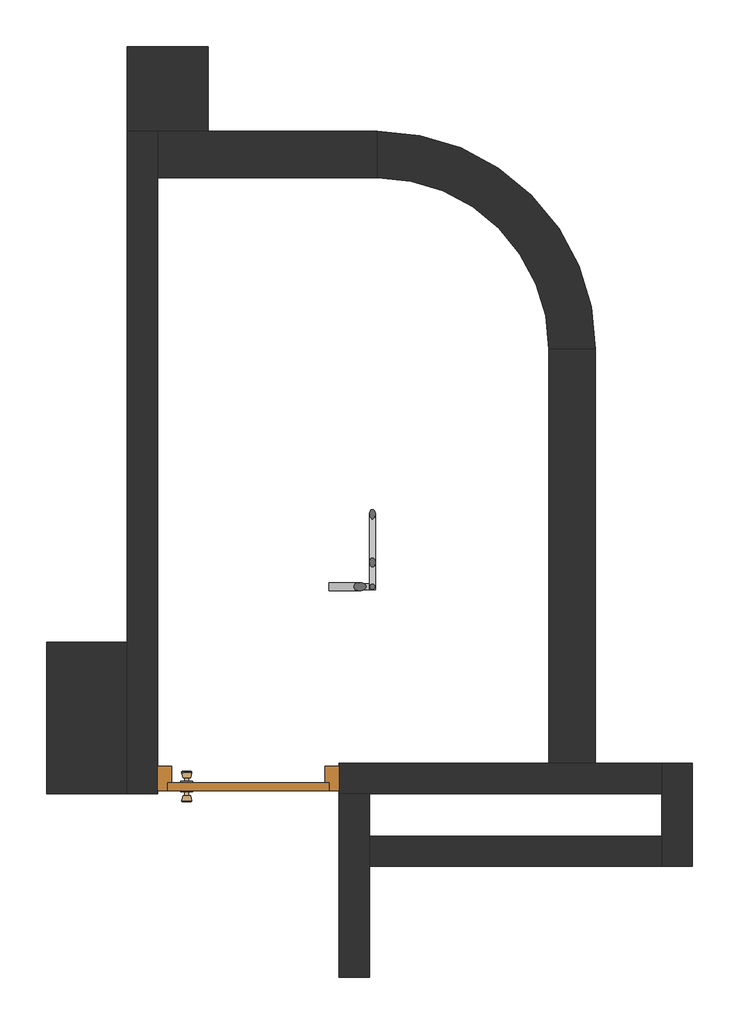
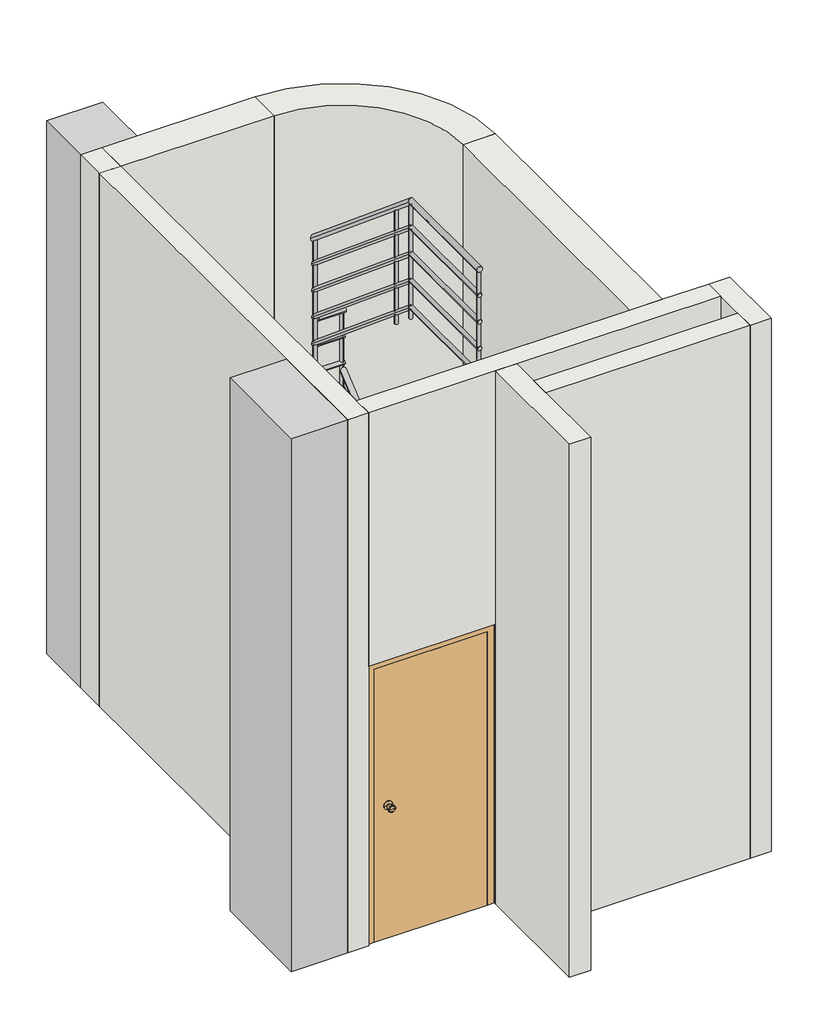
# One storey: 8 walls, 2 columns, 1 door, 1 railing.
"""IFC4 building model written with IfcOpenShell, lengths in millimetres."""

from ifc_helpers import new_model, si_unit, point, frame, frame_2d, origin, place, context, project, spatial, polyline, circle_curve, trimmed, segment, composite_curve, outline, extrude, faceted_brep, transform, mapped, element, save
from components import column_40x65_6e326135, column_55x75_de16586b, door_90x210_62a0c4fc, railing_c0a6fd58

model = new_model("IFC4")

# Units and contexts
model_context = context("Model", 3, world=origin())
ifc_project = project(units=[si_unit("LENGTHUNIT", "METRE", prefix="MILLI")], contexts=[model_context])

# Site, building, storey
site = spatial("IfcSite", under=ifc_project)
building = spatial("IfcBuilding", under=site)
storey = spatial("IfcBuildingStorey", under=building, Name="標高 1", Elevation=200.0)

# Columns
placement = place(None, origin())
column_40x65_shape = column_40x65_6e326135(model_context)
element("IfcColumn", 1, ObjectType="混凝土柱-矩形 : 40x65", at=placement, inside=storey, context=model_context, shape_type="MappedRepresentation", body=[
    mapped(column_40x65_shape, transform((-43.3424132, 2243.6901696, 0.0), x_axis=(1.0, 0.0, 0.0), y_axis=(0.0, 1.0, 0.0), z_axis=(0.0, 0.0, 1.0))),
])
column_55x75_shape = column_55x75_de16586b(model_context)
element("IfcColumn", 2, ObjectType="混凝土柱-矩形 : 55x75", at=placement, inside=storey, context=model_context, shape_type="MappedRepresentation", body=[
    mapped(column_55x75_shape, transform((-368.3424132, -756.3098304, 0.0), x_axis=(1.0, 0.0, 0.0), y_axis=(0.0, 1.0, 0.0), z_axis=(0.0, 0.0, 1.0))),
])

# Door
door_90x210_shape = door_90x210_62a0c4fc(model_context)
element("IfcDoor", 3, ObjectType="門-單開門-矩形 (1) : 90x210", at=placement, inside=storey, context=model_context, shape_type="MappedRepresentation", body=[
    mapped(door_90x210_shape, transform((356.3494337, -1056.3098304, 200.0), x_axis=(-1.0, 0.0, 0.0), y_axis=(0.0, -1.0, 0.0), z_axis=(0.0, 0.0, 1.0))),
])

# Railing
railing_shape = railing_c0a6fd58(model_context)
element("IfcRailing", 4, ObjectType="900mm 圓管", at=placement, inside=storey, context=model_context, shape_type="MappedRepresentation", body=[
    mapped(railing_shape, transform((0.0, 0.0, 0.0), x_axis=(1.0, 0.0, 0.0), y_axis=(0.0, 1.0, 0.0), z_axis=(0.0, 0.0, 1.0))),
])

# Walls
element("IfcWall", 5, ObjectType="RC牆 15cm", at=placement, inside=storey, context=model_context, shape_type="Brep", body=[
    faceted_brep([(-243.3424132, 2148.6901696, 200.0), (-243.3424132, -1131.3098304, 200.0), (-243.3424132, -1131.3098304, 4200.0), (-243.3424132, 2148.6901696, 4200.0), (-93.3424132, 2148.6901696, 4200.0), (-93.3424132, 1918.6901696, 4200.0), (-93.3424132, -981.3098304, 4200.0), (-93.3424132, -1131.3098304, 4200.0), (-93.3424132, -1131.3098304, 2300.0), (-93.3424132, -981.3098304, 2300.0), (-93.3424132, -981.3098304, 200.0), (-93.3424132, 1918.6901696, 200.0), (-93.3424132, 2148.6901696, 200.0), (-93.6505663, -981.3098304, 200.0), (-93.6505663, -1131.3098304, 200.0), (-93.6505663, -1131.3098304, 2300.0), (-93.6505663, -981.3098304, 2300.0)], [[[0, 1, 2, 3]], [[4, 5, 6, 7, 8, 9, 10, 11, 12]], [[1, 0, 12, 11, 10, 13, 14]], [[3, 2, 7, 6, 5, 4]], [[2, 1, 14, 15, 8, 7]], [[0, 3, 4, 12]], [[16, 13, 10, 9]], [[13, 16, 15, 14]], [[15, 16, 9, 8]]]),
])
element("IfcWall", 6, ObjectType="RC牆 15cm", at=placement, inside=storey, context=model_context, shape_type="SweptSolid", body=[
    extrude(outline(polyline([(2406.3494337, -1491.3098304), (956.3494337, -1491.3098304), (956.3494337, -1341.3098304), (2406.3494337, -1341.3098304), (2406.3494337, -1491.3098304)])), frame((0.0, 0.0, 200.0), z_axis=(0.0, 0.0, 1.0), x_axis=(1.0, 0.0, 0.0)), (0.0, 0.0, 1.0), 4000.0),
])
element("IfcWall", 7, ObjectType="RC牆 15cm", at=placement, inside=storey, context=model_context, shape_type="Brep", body=[
    faceted_brep([(806.3494337, -1131.3098304, 200.0), (806.3494337, -2041.3098304, 200.0), (806.3494337, -2041.3098304, 4200.0), (806.3494337, -1131.3098304, 4200.0), (956.3494337, -1131.3098304, 200.0), (956.3494337, -1131.3098304, 4200.0), (956.3494337, -1341.3098304, 4200.0), (956.3494337, -1491.3098304, 4200.0), (956.3494337, -2041.3098304, 4200.0), (956.3494337, -2041.3098304, 200.0), (956.3494337, -1491.3098304, 200.0), (956.3494337, -1341.3098304, 200.0)], [[[0, 1, 2, 3]], [[4, 5, 6, 7, 8, 9, 10, 11]], [[1, 0, 4, 11, 10, 9]], [[2, 1, 9, 8]], [[3, 2, 8, 7, 6, 5]], [[0, 3, 5, 4]]]),
])
element("IfcWall", 8, ObjectType="RC牆 15cm", at=placement, inside=storey, context=model_context, shape_type="Brep", body=[
    faceted_brep([(2406.3494337, -1131.3098304, 4200.0), (956.3494337, -1131.3098304, 4200.0), (806.3494337, -1131.3098304, 4200.0), (-93.3424132, -1131.3098304, 4200.0), (-93.3424132, -1131.3098304, 2300.0), (806.3494337, -1131.3098304, 2300.0), (806.3494337, -1131.3098304, 200.0), (956.3494337, -1131.3098304, 200.0), (2406.3494337, -1131.3098304, 200.0), (-93.3424132, -981.3098304, 4200.0), (1846.6575868, -981.3098304, 4200.0), (2076.6575868, -981.3098304, 4200.0), (2406.3494337, -981.3098304, 4200.0), (2406.3494337, -981.3098304, 200.0), (2076.6575868, -981.3098304, 200.0), (1846.6575868, -981.3098304, 200.0), (806.3494337, -981.3098304, 200.0), (806.3494337, -981.3098304, 2300.0), (-93.3424132, -981.3098304, 2300.0)], [[[0, 1, 2, 3, 4, 5, 6, 7, 8]], [[9, 10, 11, 12, 13, 14, 15, 16, 17, 18]], [[13, 8, 7, 6, 16, 15, 14]], [[3, 2, 1, 0, 12, 11, 10, 9]], [[3, 9, 18, 4]], [[0, 8, 13, 12]], [[17, 5, 4, 18]], [[5, 17, 16, 6]]]),
])
element("IfcWall", 9, ObjectType="RC牆 15cm", at=placement, inside=storey, context=model_context, shape_type="Brep", body=[
    faceted_brep([(2556.3494337, -1491.3098304, 200.0), (2556.3494337, -981.3098304, 200.0), (2556.3494337, -981.3098304, 4200.0), (2556.3494337, -1491.3098304, 4200.0), (2406.3494337, -1491.3098304, 200.0), (2406.3494337, -1491.3098304, 4200.0), (2406.3494337, -1341.3098304, 4200.0), (2406.3494337, -1131.3098304, 4200.0), (2406.3494337, -981.3098304, 4200.0), (2406.3494337, -981.3098304, 200.0), (2406.3494337, -1131.3098304, 200.0), (2406.3494337, -1341.3098304, 200.0)], [[[0, 1, 2, 3]], [[4, 5, 6, 7, 8, 9, 10, 11]], [[1, 0, 4, 11, 10, 9]], [[3, 2, 8, 7, 6, 5]], [[0, 3, 5, 4]], [[2, 1, 9, 8]]]),
])
element("IfcWall", 10, ObjectType="RC牆 23cm", at=placement, inside=storey, context=model_context, shape_type="SweptSolid", body=[
    extrude(outline(composite_curve([segment(polyline([(996.6711761, 1918.6901704), (996.6439975, 2148.6901688)]), True, "CONTINUOUS"), segment(trimmed(circle_curve(frame_2d((996.7716051, 1068.8041879)), 1079.8859884), [point((996.6439975, 2148.6901688))], [point((2076.657586, 1068.6765803))], False, "CARTESIAN"), True, "CONTINUOUS"), segment(polyline([(2076.657586, 1068.6765803), (1846.6575876, 1068.7037588)]), True, "CONTINUOUS"), segment(trimmed(circle_curve(frame_2d((996.7716051, 1068.8041879)), 849.8859884), [point((1846.6575876, 1068.7037588))], [point((996.6711761, 1918.6901704))], True, "CARTESIAN"), True, "CONTINUOUS")], self_intersect=False)), frame((0.0, 0.0, 200.0), z_axis=(0.0, 0.0, 1.0), x_axis=(1.0, 0.0, 0.0)), (0.0, 0.0, 1.0), 4000.0),
])
element("IfcWall", 11, ObjectType="RC牆 23cm", at=placement, inside=storey, context=model_context, shape_type="SweptSolid", body=[
    extrude(outline(polyline([(2076.6575868, 1068.6901696), (2076.6575868, -981.3098304), (1846.6575868, -981.3098304), (1846.6575868, 1068.6901696), (2076.6575868, 1068.6901696)])), frame((0.0, 0.0, 200.0), z_axis=(0.0, 0.0, 1.0), x_axis=(1.0, 0.0, 0.0)), (0.0, 0.0, 1.0), 4000.0),
])
element("IfcWall", 12, ObjectType="RC牆 23cm", at=placement, inside=storey, context=model_context, shape_type="SweptSolid", body=[
    extrude(outline(polyline([(-93.3424132, 2148.6901696), (996.6575868, 2148.6901696), (996.6575868, 1918.6901696), (-93.3424132, 1918.6901696), (-93.3424132, 2148.6901696)])), frame((0.0, 0.0, 200.0), z_axis=(0.0, 0.0, 1.0), x_axis=(1.0, 0.0, 0.0)), (0.0, 0.0, 1.0), 4000.0),
])

save(model, "model.ifc")
